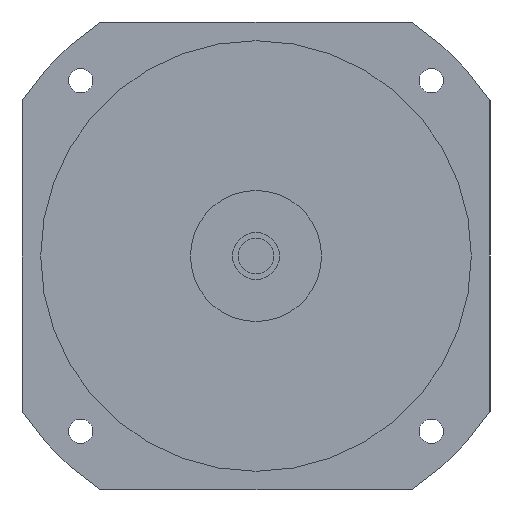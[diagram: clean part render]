
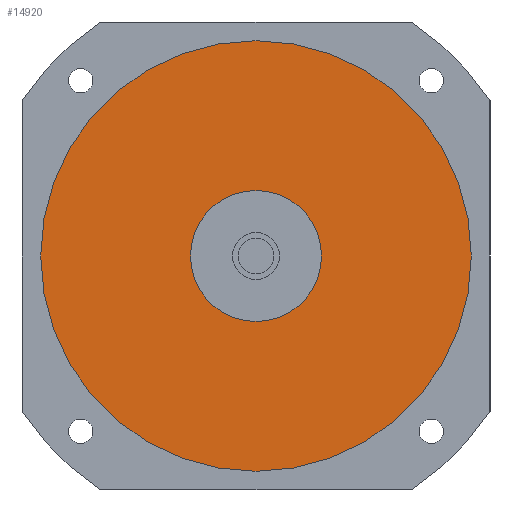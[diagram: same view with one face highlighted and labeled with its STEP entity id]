
A CAD part, left-side view. The second image highlights one B-rep face of the part: STEP entity #14920.
In plain terms, the highlighted planar face has unit normal (-1, 0, 0) as drawn and (0, 0, -1) by its records, which use the part's own axes.
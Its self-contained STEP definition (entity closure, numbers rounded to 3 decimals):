
#14340=CARTESIAN_POINT('',(115.,0.,-55.2));
#14350=VERTEX_POINT('',#14340);
#14440=CARTESIAN_POINT('',(-115.,0.,-55.2));
#14450=VERTEX_POINT('',#14440);
#14480=CARTESIAN_POINT('',(0.,0.,
-55.2));
#14490=DIRECTION('',(0.,0.,1.));
#14500=DIRECTION('',(0.,1.,0.));
#14510=AXIS2_PLACEMENT_3D('',#14480,#14490,#14500);
#14520=CIRCLE('',#14510,115.);
#14530=CARTESIAN_POINT('',(0.,115.,-55.2));
#14540=VERTEX_POINT('',#14530);
#14550=EDGE_CURVE('',#14540,#14450,#14520,.T.);
#14570=EDGE_CURVE('',#14350,#14540,#14520,.T.);
#14620=CARTESIAN_POINT('',(0.,0.,
-55.2));
#14630=DIRECTION('',(0.,0.,1.));
#14640=DIRECTION('',(-1.,0.,0.));
#14650=AXIS2_PLACEMENT_3D('',#14620,#14630,#14640);
#14660=PLANE('',#14650);
#14670=CARTESIAN_POINT('',(0.,0.,
-55.2));
#14680=DIRECTION('',(0.,0.,1.));
#14690=DIRECTION('',(0.,1.,0.));
#14700=AXIS2_PLACEMENT_3D('',#14670,#14680,#14690);
#14710=CIRCLE('',#14700,35.);
#14720=CARTESIAN_POINT('',(-35.,0.,-55.2));
#14730=VERTEX_POINT('',#14720);
#14740=CARTESIAN_POINT('',(35.,0.,-55.2));
#14750=VERTEX_POINT('',#14740);
#14760=EDGE_CURVE('',#14730,#14750,#14710,.T.);
#14770=ORIENTED_EDGE('',*,*,#14760,.T.);
#14780=CARTESIAN_POINT('',(0.,35.,-55.2));
#14790=VERTEX_POINT('',#14780);
#14800=EDGE_CURVE('',#14790,#14730,#14710,.T.);
#14810=ORIENTED_EDGE('',*,*,#14800,.T.);
#14820=EDGE_CURVE('',#14750,#14790,#14710,.T.);
#14830=ORIENTED_EDGE('',*,*,#14820,.T.);
#14840=EDGE_LOOP('',(#14830,#14810,#14770));
#14850=FACE_BOUND('',#14840,.T.);
#14860=ORIENTED_EDGE('',*,*,#14550,.F.);
#14870=EDGE_CURVE('',#14450,#14350,#14520,.T.);
#14880=ORIENTED_EDGE('',*,*,#14870,.F.);
#14890=ORIENTED_EDGE('',*,*,#14570,.F.);
#14900=EDGE_LOOP('',(#14890,#14880,#14860));
#14910=FACE_OUTER_BOUND('',#14900,.T.);
#14920=ADVANCED_FACE('',(#14850,#14910),#14660,.F.);
